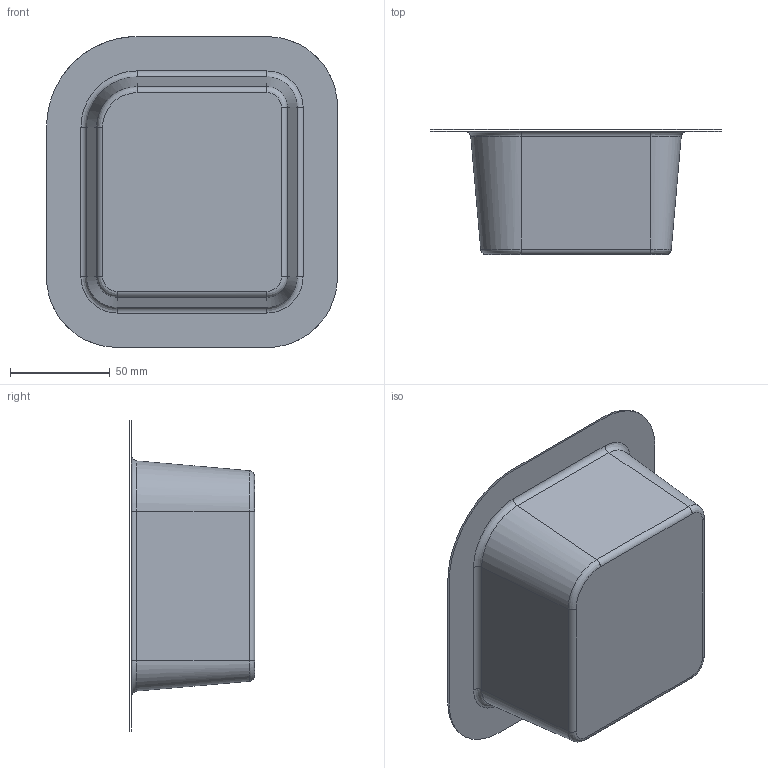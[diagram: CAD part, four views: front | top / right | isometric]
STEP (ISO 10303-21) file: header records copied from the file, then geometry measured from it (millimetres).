
FILE_DESCRIPTION(('CATIA V5 STEP Exchange'),'2;1');
FILE_NAME('C:\_Andres\UNIVERSIDAD\IQS\ASIGNATURAS\DAO\Controles\1617\c3\2inicio\Bosch_Dalmau_control3_v5.stp','2017-02-17T14:22:02+00:00',('none'),('none'),'CATIA Version 5-6 Release 2014 SP1 HF18','CATIA V5 STEP AP203','none');
FILE_SCHEMA(('CONFIG_CONTROL_DESIGN'));
Length unit declared in the file: millimetre
Products named in the file (1): Bosch_Dalmau_control3_v5
Bounding box: 145.81 x 62.76 x 155.81 mm (x, y, z)
Surface area: 64493.2 mm2 (no closed solid volume)
Topology: 0 solids, 2 shells, 27 faces, 80 edges, 57 vertices
Faces by surface type: bspline 16, cylinder 8, plane 3
Entity records: 1907 total; most frequent: CARTESIAN_POINT 1311, ORIENTED_EDGE 128, EDGE_CURVE 72, B_SPLINE_CURVE_WITH_KNOTS 54, DIRECTION 50, VERTEX_POINT 48, EDGE_LOOP 28, ADVANCED_FACE 27
